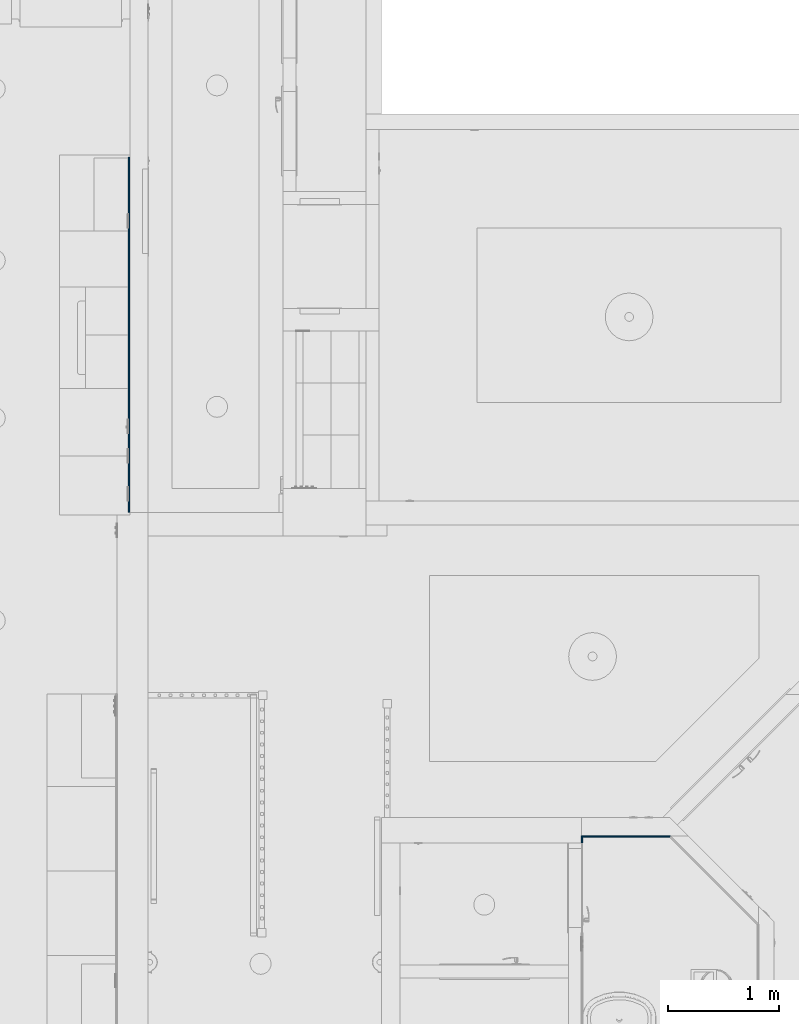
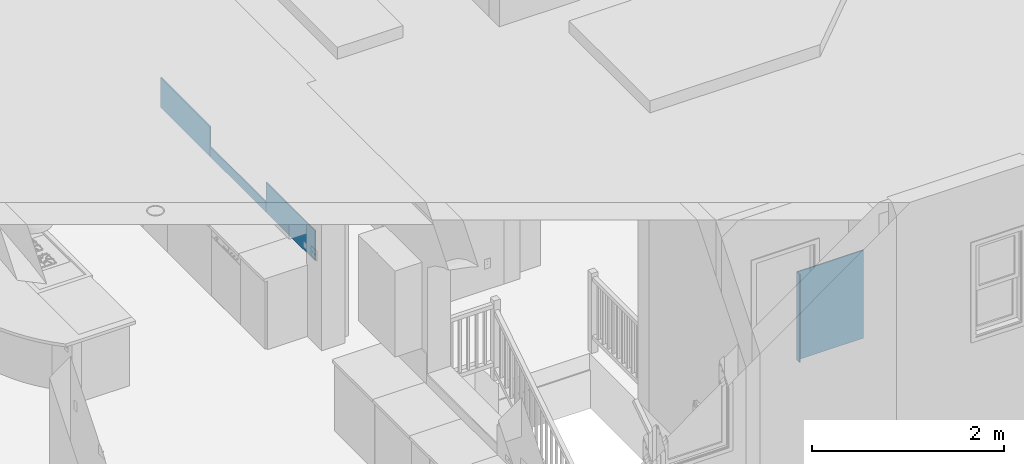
# One storey, part 2 of 103: 5 beams.
"""IFC2X3 building model written with IfcOpenShell, lengths in inches."""

import ifcopenshell
import ifcopenshell.guid

model = None  # the IFC model being written
_history = None  # IfcOwnerHistory: only IFC2X3 demands one
_inside = {}  # id of a spatial element -> (the spatial element, [elements in it])
_under = {}  # id of a project, library or spatial element -> (it, [spatial elements below it])
_declared = {}  # id of a project -> (the project, [libraries it declares])
_typed = {}  # id of a type object -> (the type object, [elements of that type])
_made_of = {}  # id of a material, layer set ... -> (it, [elements and type objects made of it])


def new_model(schema):
    """Start an empty IFC model of exactly this schema.

    Asked for "IFC4X3", IfcOpenShell would pick the latest addendum, in which some entities
    have other attributes; the version numbers below select the first issue.
    IFC2X3 requires an IfcOwnerHistory on every rooted entity: one is made here for all.
    """
    global model, _history
    if schema == "IFC4X3":
        model = ifcopenshell.file(schema_version=(4, 3, 0, 0))
    else:
        model = ifcopenshell.file(schema=schema)
    _inside.clear()
    _under.clear()
    _declared.clear()
    _typed.clear()
    _made_of.clear()
    _history = None
    if model.schema == "IFC2X3":
        org = make("IfcOrganization", Name="unknown")
        user = make(
            "IfcPersonAndOrganization",
            ThePerson=make("IfcPerson", FamilyName="unknown"),
            TheOrganization=org,
        )
        app = make(
            "IfcApplication",
            ApplicationDeveloper=org,
            Version="unknown",
            ApplicationFullName="unknown",
            ApplicationIdentifier="unknown",
        )
        _history = make(
            "IfcOwnerHistory",
            OwningUser=user,
            OwningApplication=app,
            ChangeAction="ADDED",
            CreationDate=0,
        )
    return model


def make(cls, **values):
    """One entity of the class cls with the attributes given. An attribute that is None is left unset."""
    return model.create_entity(
        cls, **{name: value for name, value in values.items() if value is not None}
    )


def entity(cls, *values):
    """Any entity or typed value of the class cls, its attributes in the order of the schema. None: left unset."""
    e = model.create_entity(cls)
    for i, value in enumerate(values):
        if value is not None:
            e[i] = value
    return e


def rooted(cls, **values):
    """An entity with a GlobalId (a new one), such as an element, a storey or a relation."""
    return make(cls, GlobalId=ifcopenshell.guid.new(), OwnerHistory=_history, **values)


def si_unit(unit_type, name, prefix=None):
    """IfcSIUnit, for example si_unit("LENGTHUNIT", "METRE", prefix="MILLI")."""
    return make("IfcSIUnit", UnitType=unit_type, Prefix=prefix, Name=name)


def converted_unit(unit_type, name, factor, base, dimensions=None, offset=None):
    """IfcConversionBasedUnit, such as the inch: factor (a typed value) times the base unit."""
    return make(
        "IfcConversionBasedUnit"
        if offset is None
        else "IfcConversionBasedUnitWithOffset",
        ConversionOffset=offset,
        Dimensions=None
        if dimensions is None
        else entity("IfcDimensionalExponents", *dimensions),
        UnitType=unit_type,
        Name=name,
        ConversionFactor=make(
            "IfcMeasureWithUnit", ValueComponent=factor, UnitComponent=base
        ),
    )


def derived_unit(unit_type, elements):
    """IfcDerivedUnit: a product of units, each with its exponent."""
    return make(
        "IfcDerivedUnit",
        Elements=[
            make("IfcDerivedUnitElement", Unit=unit, Exponent=power)
            for unit, power in elements
        ],
        UnitType=unit_type,
    )


def money_unit(currency):
    """IfcMonetaryUnit."""
    return make("IfcMonetaryUnit", Currency=currency)


def assignment(units):
    """IfcUnitAssignment: the units of a project."""
    return None if units is None else make("IfcUnitAssignment", Units=units)


def point(xyz):
    """IfcCartesianPoint."""
    return None if xyz is None else make("IfcCartesianPoint", Coordinates=xyz)


def direction(xyz):
    """IfcDirection."""
    return None if xyz is None else make("IfcDirection", DirectionRatios=xyz)


def frame(location, z_axis=None, x_axis=None):
    """IfcAxis2Placement3D, a coordinate frame: its origin and axes. An axis left out is left unset."""
    return make(
        "IfcAxis2Placement3D",
        Location=point(location),
        Axis=direction(z_axis),
        RefDirection=direction(x_axis),
    )


def origin_with_axes():
    """The frame at (0, 0, 0) with the z axis (0, 0, 1) and the x axis (1, 0, 0) written out."""
    return frame((0.0, 0.0, 0.0), z_axis=(0.0, 0.0, 1.0), x_axis=(1.0, 0.0, 0.0))


def place(relative_to, where):
    """IfcLocalPlacement: puts the frame where relative to a parent placement (None: the world)."""
    return make(
        "IfcLocalPlacement", PlacementRelTo=relative_to, RelativePlacement=where
    )


def context(
    kind, dimensions, precision=None, world=None, true_north=None, identifier=None
):
    """IfcGeometricRepresentationContext, for example the 3D "Model" context."""
    return make(
        "IfcGeometricRepresentationContext",
        ContextIdentifier=identifier,
        ContextType=kind,
        CoordinateSpaceDimension=dimensions,
        Precision=precision,
        WorldCoordinateSystem=world,
        TrueNorth=true_north,
    )


def subcontext(parent, identifier, kind, view, scale=None):
    """IfcGeometricRepresentationSubContext, for example "Body" below "Model"."""
    return make(
        "IfcGeometricRepresentationSubContext",
        ContextIdentifier=identifier,
        ContextType=kind,
        ParentContext=parent,
        TargetScale=scale,
        TargetView=view,
    )


def project(units=None, contexts=None):
    """IfcProject with its units and contexts."""
    return rooted(
        "IfcProject",
        Name="project",
        RepresentationContexts=contexts,
        UnitsInContext=assignment(units),
    )


def spatial(cls, under=None, at=None, **own):
    """A site, building, storey or space (cls), placed at a placement, below another one or the project."""
    s = rooted(cls, ObjectPlacement=at, **own)
    if under is not None:
        _under.setdefault(under.id(), (under, []))[1].append(s)
    return s


def faces_of(points, faces, orient=None, outer=None):
    """IfcFace entities. A face is a list of loops; a loop is a list of indices into points, from 0.

    orient and outer hold one flag for each loop. By default every Orientation is true, the
    first loop of a face is its IfcFaceOuterBound and the others are IfcFaceBound.
    """
    made = []
    for i, loops in enumerate(faces):
        bounds = []
        for j, loop in enumerate(loops):
            is_outer = j == 0 if outer is None else outer[i][j]
            bounds.append(
                make(
                    "IfcFaceOuterBound" if is_outer else "IfcFaceBound",
                    Bound=make("IfcPolyLoop", Polygon=[points[k] for k in loop]),
                    Orientation=True if orient is None else orient[i][j],
                )
            )
        made.append(make("IfcFace", Bounds=bounds))
    return made


def faceted_brep(points, faces, orient=None, outer=None, voids=None):
    """IfcFacetedBrep: a solid bounded by flat faces; with voids (closed shells), ...WithVoids."""
    shared = [point(p) for p in points]
    hull = make("IfcClosedShell", CfsFaces=faces_of(shared, faces, orient, outer))
    if voids is None:
        return make("IfcFacetedBrep", Outer=hull)
    return make(
        "IfcFacetedBrepWithVoids",
        Outer=hull,
        Voids=[
            make(cls, CfsFaces=faces_of(shared, fs, o, b)) for cls, fs, o, b in voids
        ],
    )


def shape(context_of_items, identifier, shape_type, items):
    """IfcShapeRepresentation: the items that make up one representation, for example the "Body"."""
    return make(
        "IfcShapeRepresentation",
        ContextOfItems=context_of_items,
        RepresentationIdentifier=identifier,
        RepresentationType=shape_type,
        Items=items,
    )


def material(Name=None, Category=None):
    """IfcMaterial."""
    return make("IfcMaterial", Name=Name, Category=Category)


def made_of(thing, what):
    """Note that an element or type object is made of a material, layer set ...; save() writes the relation."""
    if what is not None:
        _made_of.setdefault(what.id(), (what, []))[1].append(thing)
    return thing


def type_object(cls, material=None, **own):
    """A type object (cls), such as IfcWallType, which elements share."""
    return made_of(rooted(cls, **own), material)


def element(
    cls,
    number,
    at=None,
    inside=None,
    cuts=None,
    type_object=None,
    material=None,
    context=None,
    identifier="Body",
    shape_type=None,
    held_by="IfcProductDefinitionShape",
    body=None,
    shapes=None,
    **own,
):
    """One element of the class cls, such as IfcWall. Its Tag is "e" and its number.

    at: its placement. inside: the storey or other place that contains it. cuts: it is an
    opening in that element (IfcRelVoidsElement). A single representation is given by context,
    identifier, shape_type and body (its items); several are given by shapes. held_by: the class
    of the entity that holds the representations. save() writes the other relations.
    """
    e = rooted(cls, Tag="e%d" % number, ObjectPlacement=at, **own)
    if body is not None:
        shapes = [shape(context, identifier, shape_type, body)]
    if shapes is not None:
        e.Representation = make(held_by, Representations=shapes)
    if inside is not None:
        _inside.setdefault(inside.id(), (inside, []))[1].append(e)
    if cuts is not None:
        rooted(
            "IfcRelVoidsElement", RelatingBuildingElement=cuts, RelatedOpeningElement=e
        )
    if type_object is not None:
        _typed.setdefault(type_object.id(), (type_object, []))[1].append(e)
    return made_of(e, material)


def aggregate(whole, parts):
    """IfcRelAggregates: a whole, such as a stair, and the parts it consists of."""
    return rooted("IfcRelAggregates", RelatingObject=whole, RelatedObjects=parts)


def save(model, path):
    """Write the relations noted so far, then the file.

    IfcRelAggregates (storeys below a building ...), IfcRelContainedInSpatialStructure (elements
    in a storey), IfcRelDefinesByType, IfcRelAssociatesMaterial and IfcRelDeclares: one each for
    every whole, place, type object, material and project.
    """
    for whole, parts in _under.values():
        aggregate(whole, parts)
    for where, things in _inside.values():
        rooted(
            "IfcRelContainedInSpatialStructure",
            RelatedElements=things,
            RelatingStructure=where,
        )
    for kind, things in _typed.values():
        rooted("IfcRelDefinesByType", RelatedObjects=things, RelatingType=kind)
    for what, things in _made_of.values():
        rooted("IfcRelAssociatesMaterial", RelatedObjects=things, RelatingMaterial=what)
    for by, libraries in _declared.values():
        rooted("IfcRelDeclares", RelatingContext=by, RelatedDefinitions=libraries)
    model.write(path)


model = new_model("IFC2X3")

# Units and contexts
model_context = context("Model", 3, precision=0.00039370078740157, world=origin_with_axes(), true_north=direction((0.0, 1.0)))
plan_context = context("Plan", 3, precision=0.00039370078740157, world=origin_with_axes(), true_north=direction((0.0, 1.0)))
body_context = subcontext(model_context, "Body", "Model", "MODEL_VIEW")
ifc_project = project(units=[converted_unit("LENGTHUNIT", "INCH", entity("IfcPositiveLengthMeasure", 0.0254), si_unit("LENGTHUNIT", "METRE"), dimensions=[1, 0, 0, 0, 0, 0, 0]), converted_unit("AREAUNIT", "SQUARE_FOOT", entity("IfcPositiveLengthMeasure", 0.09290304), si_unit("AREAUNIT", "SQUARE_METRE"), dimensions=[2, 0, 0, 0, 0, 0, 0]), si_unit("PLANEANGLEUNIT", "RADIAN"), si_unit("SOLIDANGLEUNIT", "STERADIAN"), money_unit("USD"), converted_unit("TIMEUNIT", "Year", entity("IfcTimeMeasure", 31557600.0), si_unit("TIMEUNIT", "SECOND"), dimensions=[0, 0, 1, 0, 0, 0, 0]), si_unit("MASSUNIT", "GRAM", prefix="KILO"), si_unit("THERMODYNAMICTEMPERATUREUNIT", "DEGREE_CELSIUS"), si_unit("LUMINOUSINTENSITYUNIT", "LUMEN"), si_unit("ENERGYUNIT", "JOULE", prefix="MEGA"), derived_unit("SPECIFICHEATCAPACITYUNIT", [(si_unit("ENERGYUNIT", "JOULE"), 1), (si_unit("MASSUNIT", "GRAM", prefix="KILO"), -1), (si_unit("THERMODYNAMICTEMPERATUREUNIT", "KELVIN"), -1)])], contexts=[model_context, plan_context])

# Site, building, storey
site_placement = place(None, origin_with_axes())
site = spatial("IfcSite", under=ifc_project, at=site_placement, Name="Site", CompositionType="ELEMENT")
building_placement = place(site_placement, origin_with_axes())
building = spatial("IfcBuilding", under=site, at=building_placement, Name="Building", CompositionType="ELEMENT")
storey_placement = place(building_placement, frame((0.0, 0.0, 127.9999999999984), z_axis=(0.0, 0.0, 1.0), x_axis=(1.0, 0.0, 0.0)))
storey = spatial("IfcBuildingStorey", under=building, at=storey_placement, Name="Second Floor", CompositionType="ELEMENT", Elevation=128.0)

# Beams
ifc_material = material(Name="Tile - Walls")
beam_type_1 = type_object("IfcBeamType", Name="Tile - Walls 1/2\" x 5\"", PredefinedType="BEAM")
beam_1_placement = place(storey_placement, frame((154.9997930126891, 237.0007128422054, 35.99999999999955), z_axis=(0.0, 0.0, 1.0), x_axis=(0.9999999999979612, 2.019381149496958e-06, 0.0)))
element("IfcBeam", 1, at=beam_1_placement, inside=storey, type_object=beam_type_1, material=ifc_material, Name="BMR - 041", context=body_context, shape_type="Brep", body=[
    faceted_brep([(-0.4999999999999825, 0.0, 0.0), (-0.5, 45.9943922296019, 0.0), (0.0, 45.9943922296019, 0.0), (0.0, 0.0, 0.0), (-0.4999999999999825, 0.0, 4.99999999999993), (-0.5, 45.9943922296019, 4.99999999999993), (0.0, 45.9943922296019, 4.99999999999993), (0.0, 0.0, 4.99999999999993)], [[[0, 1, 2, 3]], [[4, 5, 1, 0]], [[2, 1, 5, 6]], [[3, 2, 6, 7]], [[4, 0, 3, 7]], [[7, 6, 5, 4]]]),
])
beam_type_2 = type_object("IfcBeamType", Name="Tile - Walls 1/2\" x 15\"", PredefinedType="BEAM")
beam_2_placement = place(storey_placement, frame((154.9997001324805, 282.9951050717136, 35.99999999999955), z_axis=(0.0, 0.0, 1.0), x_axis=(0.9999999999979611, 2.019381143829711e-06, 0.0)))
element("IfcBeam", 2, at=beam_2_placement, inside=storey, type_object=beam_type_2, material=ifc_material, Name="BMR - 041", context=body_context, shape_type="Brep", body=[
    faceted_brep([(-0.499999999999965, 0.0, 0.0), (-0.499999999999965, 40.24999999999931, 0.0), (0.0, 40.24999999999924, 0.0), (0.0, 0.0, 0.0), (-0.499999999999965, 0.0, 14.99999999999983), (-0.499999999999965, 40.24999999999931, 14.99999999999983), (0.0, 40.24999999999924, 14.99999999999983), (0.0, 0.0, 14.99999999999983)], [[[0, 1, 2, 3]], [[4, 5, 1, 0]], [[2, 1, 5, 6]], [[3, 2, 6, 7]], [[4, 0, 3, 7]], [[7, 6, 5, 4]]]),
])
beam_3_placement = place(storey_placement, frame((154.9998737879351, 197.0007128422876, 35.99999999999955), z_axis=(0.0, 0.0, 1.0), x_axis=(0.9999999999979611, 2.019381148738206e-06, 0.0)))
element("IfcBeam", 3, at=beam_3_placement, inside=storey, type_object=beam_type_2, material=ifc_material, Name="BMR - 041", context=body_context, shape_type="Brep", body=[
    faceted_brep([(-0.4999999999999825, 0.0, 0.0), (-0.4999999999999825, 39.99999999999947, 0.0), (0.0, 39.99999999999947, 0.0), (0.0, 0.0, 0.0), (-0.4999999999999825, 0.0, 14.99999999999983), (-0.4999999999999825, 39.99999999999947, 14.99999999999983), (0.0, 39.99999999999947, 14.99999999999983), (0.0, 0.0, 14.99999999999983)], [[[0, 1, 2, 3]], [[4, 5, 1, 0]], [[2, 1, 5, 6]], [[3, 2, 6, 7]], [[4, 0, 3, 7]], [[7, 6, 5, 4]]]),
])
beam_type_3 = type_object("IfcBeamType", Name="Tile - Walls 1/2\" x 44\"", PredefinedType="BEAM")
beam_4_placement = place(storey_placement, frame((315.499999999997, 81.9999999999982, 0.0), z_axis=(0.0, 0.0, 1.0), x_axis=(-1.0, 0.0, 0.0)))
element("IfcBeam", 4, at=beam_4_placement, inside=storey, type_object=beam_type_3, material=ifc_material, Name="BMR - 113", context=body_context, shape_type="Brep", body=[
    faceted_brep([(0.0, 0.0, 0.0), (-0.5000000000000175, 0.499999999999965, 0.0), (-0.5000000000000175, 2.500000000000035, 0.0), (0.0, 2.500000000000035, 0.0), (0.0, 0.0, 43.99999999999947), (-0.5000000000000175, 0.499999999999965, 43.99999999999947), (-0.5000000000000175, 2.500000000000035, 43.99999999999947), (0.0, 2.500000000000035, 43.99999999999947)], [[[0, 1, 2, 3]], [[4, 5, 1, 0]], [[1, 5, 6, 2]], [[7, 3, 2, 6]], [[4, 0, 3, 7]], [[5, 4, 7, 6]]]),
])
beam_5_placement = place(storey_placement, frame((347.1360389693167, 81.9999999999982, 0.0), z_axis=(0.0, 0.0, 1.0), x_axis=(0.0, 1.0, 0.0)))
element("IfcBeam", 5, at=beam_5_placement, inside=storey, type_object=beam_type_3, material=ifc_material, Name="BMR - 113", context=body_context, shape_type="Brep", body=[
    faceted_brep([(0.0, 31.63603896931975, 0.0), (0.0, 0.0, 0.0), (-0.5, 0.2071067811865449, 0.0), (-0.5, 31.13603896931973, 0.0), (0.0, 31.63603896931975, 43.99999999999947), (0.0, 0.0, 43.99999999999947), (-0.5, 0.2071067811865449, 43.99999999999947), (-0.5, 31.13603896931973, 43.99999999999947)], [[[0, 1, 2, 3]], [[4, 5, 1, 0]], [[1, 5, 6, 2]], [[3, 2, 6, 7]], [[7, 4, 0, 3]], [[7, 6, 5, 4]]]),
])

save(model, "model.ifc")
